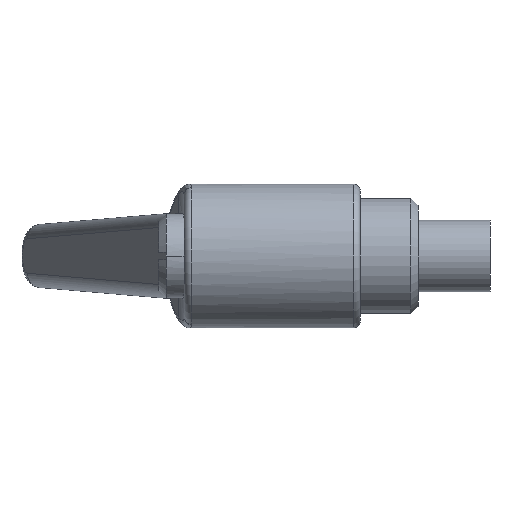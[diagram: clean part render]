
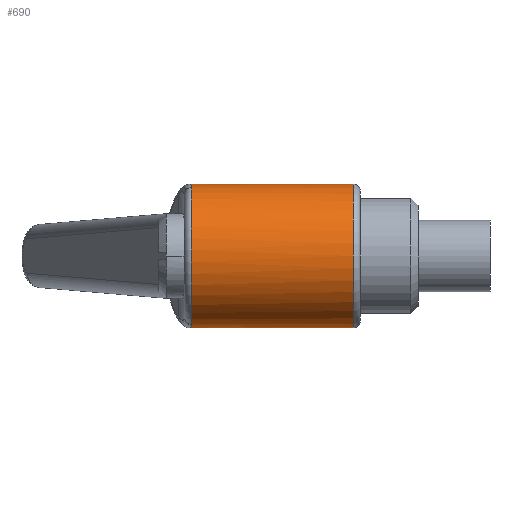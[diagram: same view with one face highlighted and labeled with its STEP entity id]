
A CAD part, left-side view. The second image highlights one B-rep face of the part: STEP entity #690.
In plain terms, the highlighted cylindrical face has radius 10 mm (diameter 20 mm), a partial arc.
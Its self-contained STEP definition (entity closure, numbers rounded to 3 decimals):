
#25 = VECTOR ( 'NONE', #724, 1000. ) ;
#29 = VERTEX_POINT ( 'NONE', #555 ) ;
#52 = VERTEX_POINT ( 'NONE', #234 ) ;
#61 = LINE ( 'NONE', #1015, #25 ) ;
#121 = CIRCLE ( 'NONE', #1225, 10. ) ;
#207 = EDGE_CURVE ( 'NONE', #29, #235, #1555, .T. ) ;
#234 = CARTESIAN_POINT ( 'NONE',  ( -3.188, -1., -9.478 ) ) ;
#235 = VERTEX_POINT ( 'NONE', #1345 ) ;
#256 = EDGE_CURVE ( 'NONE', #235, #52, #121, .T. ) ;
#305 = EDGE_CURVE ( 'NONE', #896, #628, #61, .T. ) ;
#309 = EDGE_CURVE ( 'NONE', #52, #896, #1915, .T. ) ;
#359 = EDGE_CURVE ( 'NONE', #628, #1186, #846, .T. ) ;
#392 = CARTESIAN_POINT ( 'NONE',  ( 0., -0.803, -10. ) ) ;
#400 = CARTESIAN_POINT ( 'NONE',  ( -0.542, -0.87, -10. ) ) ;
#401 = EDGE_CURVE ( 'NONE', #29, #1186, #1976, .T. ) ;
#419 = CARTESIAN_POINT ( 'NONE',  ( -1.082, -0.92, -9.956 ) ) ;
#469 = CYLINDRICAL_SURFACE ( 'NONE', #620, 10. ) ;
#477 = ORIENTED_EDGE ( 'NONE', *, *, #305, .T. ) ;
#523 = CARTESIAN_POINT ( 'NONE',  ( -2.145, -0.984, -9.782 ) ) ;
#555 = CARTESIAN_POINT ( 'NONE',  ( 0., -0.803, 10. ) ) ;
#620 = AXIS2_PLACEMENT_3D ( 'NONE', #1203, #1698, #1196 ) ;
#628 = VERTEX_POINT ( 'NONE', #1319 ) ;
#631 = EDGE_LOOP ( 'NONE', ( #1646, #1713, #1763, #1947, #477, #2085 ) ) ;
#647 = CARTESIAN_POINT ( 'NONE',  ( 0., -0.803, -10. ) ) ;
#682 = CARTESIAN_POINT ( 'NONE',  ( -2.67, -1., -9.653 ) ) ;
#687 = CARTESIAN_POINT ( 'NONE',  ( -3.188, -1., -9.478 ) ) ;
#690 = ADVANCED_FACE ( 'NONE', ( #1339 ), #469, .T. ) ;
#724 = DIRECTION ( 'NONE',  ( 0., -1., 0. ) ) ;
#846 = CIRCLE ( 'NONE', #2020, 10. ) ;
#895 = DIRECTION ( 'NONE',  ( 0., 0., -1. ) ) ;
#896 = VERTEX_POINT ( 'NONE', #647 ) ;
#903 = DIRECTION ( 'NONE',  ( 0., -1., 0. ) ) ;
#910 = CARTESIAN_POINT ( 'NONE',  ( 0., -1., 0. ) ) ;
#1015 = CARTESIAN_POINT ( 'NONE',  ( 0., 24.5, -10. ) ) ;
#1134 = VECTOR ( 'NONE', #1462, 1000. ) ;
#1186 = VERTEX_POINT ( 'NONE', #1216 ) ;
#1196 = DIRECTION ( 'NONE',  ( 0., 0., -1. ) ) ;
#1203 = CARTESIAN_POINT ( 'NONE',  ( 0., 24.5, 0. ) ) ;
#1216 = CARTESIAN_POINT ( 'NONE',  ( 0., -23.5, 10. ) ) ;
#1225 = AXIS2_PLACEMENT_3D ( 'NONE', #910, #903, #895 ) ;
#1319 = CARTESIAN_POINT ( 'NONE',  ( 0., -23.5, -10. ) ) ;
#1339 = FACE_OUTER_BOUND ( 'NONE', #631, .T. ) ;
#1345 = CARTESIAN_POINT ( 'NONE',  ( -3.188, -1., 9.478 ) ) ;
#1449 = CARTESIAN_POINT ( 'NONE',  ( 0., 24.5, 10. ) ) ;
#1462 = DIRECTION ( 'NONE',  ( 0., -1., 0. ) ) ;
#1555 = B_SPLINE_CURVE_WITH_KNOTS ( 'NONE', 3,
 ( #2051, #2059, #2015, #2003 ),
 .UNSPECIFIED., .F., .F.,
 ( 4, 4 ),
 ( 0.003, 0.007 ),
 .UNSPECIFIED. ) ;
#1646 = ORIENTED_EDGE ( 'NONE', *, *, #401, .F. ) ;
#1698 = DIRECTION ( 'NONE',  ( 0., -1., 0. ) ) ;
#1713 = ORIENTED_EDGE ( 'NONE', *, *, #207, .T. ) ;
#1763 = ORIENTED_EDGE ( 'NONE', *, *, #256, .T. ) ;
#1810 = DIRECTION ( 'NONE',  ( 0., 0., 1. ) ) ;
#1815 = DIRECTION ( 'NONE',  ( 0., 1., 0. ) ) ;
#1915 = B_SPLINE_CURVE_WITH_KNOTS ( 'NONE', 3,
 ( #687, #682, #523, #419, #400, #392 ),
 .UNSPECIFIED., .F., .F.,
 ( 4, 2, 4 ),
 ( 0., 0.002, 0.003 ),
 .UNSPECIFIED. ) ;
#1944 = CARTESIAN_POINT ( 'NONE',  ( 0., -23.5, 0. ) ) ;
#1947 = ORIENTED_EDGE ( 'NONE', *, *, #309, .T. ) ;
#1976 = LINE ( 'NONE', #1449, #1134 ) ;
#2003 = CARTESIAN_POINT ( 'NONE',  ( -3.188, -1., 9.478 ) ) ;
#2015 = CARTESIAN_POINT ( 'NONE',  ( -2.147, -1., 9.828 ) ) ;
#2020 = AXIS2_PLACEMENT_3D ( 'NONE', #1944, #1815, #1810 ) ;
#2051 = CARTESIAN_POINT ( 'NONE',  ( 0., -0.803, 10. ) ) ;
#2059 = CARTESIAN_POINT ( 'NONE',  ( -1.084, -0.938, 10. ) ) ;
#2085 = ORIENTED_EDGE ( 'NONE', *, *, #359, .T. ) ;
